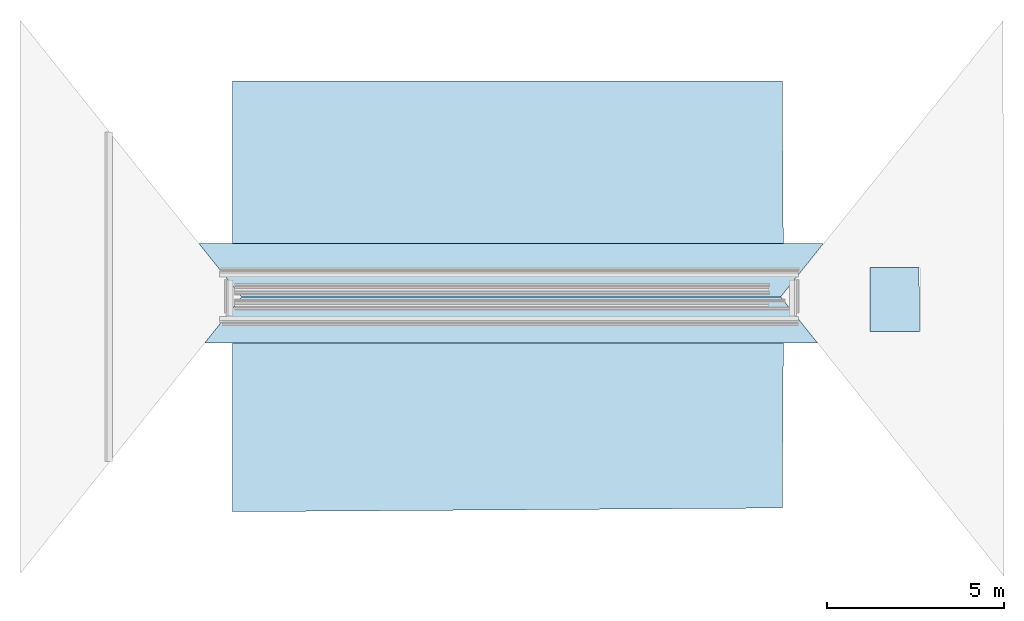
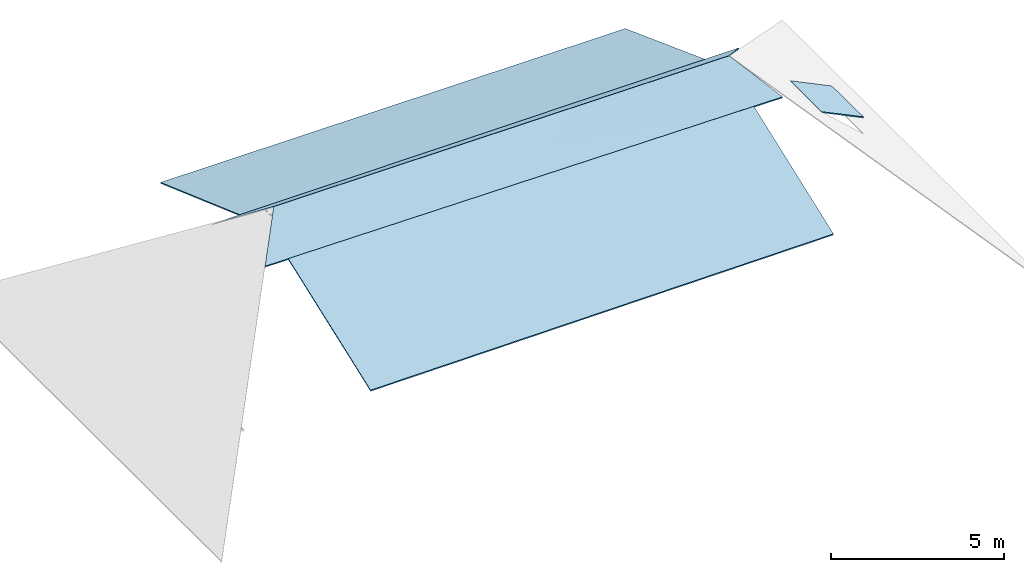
# One storey, part 3 of 3: 5 roofs.
"""IFC2X3 building model written with IfcOpenShell, lengths in centimetres."""

from ifc_helpers import new_model, entity, si_unit, converted_unit, direction, frame, origin, place, context, subcontext, project, spatial, faceted_brep, material, layer, layer_set, type_object, element, save


model = new_model("IFC2X3")

# Units and contexts
model_context = context("Model", 3, precision=0.001, world=frame((0.0, 0.0, 13090.0)), true_north=direction((6.123233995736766e-17, 1.0)))
body_context = subcontext(model_context, "Body", "Model", "MODEL_VIEW")
ifc_project = project(units=[si_unit("LENGTHUNIT", "METRE", prefix="CENTI"), si_unit("AREAUNIT", "SQUARE_METRE"), si_unit("VOLUMEUNIT", "CUBIC_METRE"), converted_unit("PLANEANGLEUNIT", "DEGREE", entity("IfcPlaneAngleMeasure", 0.017453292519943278), si_unit("PLANEANGLEUNIT", "RADIAN"), dimensions=[0, 0, 0, 0, 0, 0, 0])], contexts=[model_context])

# Site, building, storey
site_placement = place(None, origin())
site = spatial("IfcSite", under=ifc_project, at=site_placement, Name="Default", CompositionType="ELEMENT")
building_placement = place(site_placement, origin())
building = spatial("IfcBuilding", under=site, at=building_placement, Name="e 39 logements et 22 maisons relais", CompositionType="ELEMENT")
storey_placement = place(building_placement, frame((0.0, 0.0, 825.0)))
storey = spatial("IfcBuildingStorey", under=building, at=storey_placement, Name="faîtage", CompositionType="ELEMENT", Elevation=825.0000000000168)

# Roofs
ifc_material = material(Name="tole")
ifc_layer = layer(ifc_material, 4.0)
ifc_layer_set = layer_set([ifc_layer], Name="Toit de base:Tôle 1000P")
type_product = type_object("IfcTypeProduct", Name="Toit de base:Tôle 1000P")
roof_1_placement = place(storey_placement, frame((-929.8616663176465, 127.30311492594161, -202.0)))
element("IfcRoof", 1, at=roof_1_placement, inside=storey, type_object=type_product, material=ifc_layer_set, Name="Toit de base:Tôle 1000P", ObjectType="Toit de base:Tôle 1000P", ShapeType="NOTDEFINED", context=body_context, shape_type="Brep", body=[
    faceted_brep([(0.0, 0.0, 168.0), (0.0, 0.0, 164.0), (436.0607877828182, 0.0, 165.1206064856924), (872.1215755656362, 0.0, 166.24121297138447), (1556.5170944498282, 0.0, 168.0), (1556.5170944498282, 0.0, 172.0), (872.1215755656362, 0.0, 170.24121297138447), (436.0607877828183, 0.0, 169.1206064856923), (0.0, 459.087937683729, 4.0), (0.0, 459.087937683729, 0.0), (0.0, 231.5056258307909, 81.29923720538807), (0.0, 231.50562583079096, 85.29923720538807), (1553.506541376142, 459.087937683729, 0.0), (1118.289164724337, 459.087937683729, 0.0), (776.7532706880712, 459.087937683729, 0.0), (776.7532706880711, 459.087937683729, 4.0), (1118.2891647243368, 459.087937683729, 4.0), (1553.506541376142, 459.087937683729, 4.0), (1554.9989540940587, 231.5056097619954, 83.28215131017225), (1554.9989540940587, 231.50560976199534, 87.28215131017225), (1105.2638187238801, 205.82390823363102, 96.04180832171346), (653.4858907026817, 219.6840123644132, 90.3988289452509), (1105.26381872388, 205.82390823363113, 92.04180832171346), (653.4858907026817, 219.6840123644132, 86.3988289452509)], [[[0, 1, 2, 3, 4, 5, 6, 7]], [[8, 9, 10, 1, 0, 11]], [[12, 13, 14, 9, 8, 15, 16, 17]], [[4, 18, 12, 17, 19, 5]], [[20, 16, 15]], [[11, 0, 7]], [[19, 17, 16]], [[20, 15, 21]], [[11, 7, 21]], [[21, 8, 11]], [[6, 21, 7]], [[19, 20, 5]], [[21, 15, 8]], [[20, 21, 6]], [[5, 20, 6]], [[16, 20, 19]], [[14, 13, 22]], [[2, 1, 10]], [[13, 12, 18]], [[23, 14, 22]], [[23, 2, 10]], [[10, 9, 23]], [[2, 23, 3]], [[4, 22, 18]], [[9, 14, 23]], [[3, 23, 22]], [[3, 22, 4]], [[18, 22, 13]]]),
])
roof_2_placement = place(storey_placement, frame((-929.8616663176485, -629.6726698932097, -199.0)))
element("IfcRoof", 2, at=roof_2_placement, inside=storey, type_object=type_product, material=ifc_layer_set, Name="Toit de base:Tôle 1000P", ObjectType="Toit de base:Tôle 1000P", ShapeType="NOTDEFINED", context=body_context, shape_type="Brep", body=[
    faceted_brep([(1556.6504499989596, 476.9095216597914, 173.29999999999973), (1556.6504499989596, 476.9095216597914, 169.29999999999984), (1114.492104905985, 476.90952165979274, 171.20309964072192), (778.3252249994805, 476.9095216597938, 172.64999999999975), (0.0, 476.9095216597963, 176.0), (0.0, 476.9095216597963, 180.0), (778.3252249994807, 476.9095216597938, 176.64999999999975), (1114.492104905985, 476.90952165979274, 175.2030996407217), (0.0, 243.83455082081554, 89.98537247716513), (0.0, 0.0, 0.0), (0.0, 0.0, 4.0), (0.0, 243.8345508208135, 93.98537247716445), (441.28975007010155, 3.009148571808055, 0.5680894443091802), (882.5795001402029, 6.01829714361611, 1.136178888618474), (1553.5925002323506, 10.59392531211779, 2.0), (1553.5925002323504, 10.59392531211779, 6.0), (882.5795001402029, 6.018297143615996, 5.136178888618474), (441.28975007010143, 3.009148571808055, 4.5680894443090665), (1555.1559702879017, 249.01199198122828, 87.5372260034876), (1555.1559702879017, 249.01199198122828, 91.53722600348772), (1110.0930944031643, 217.6507882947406, 81.42836823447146), (662.5551311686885, 229.45871228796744, 86.89455645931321), (1110.0930944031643, 217.6507882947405, 77.42836823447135), (662.5551311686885, 229.4587122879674, 82.89455645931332)], [[[0, 1, 2, 3, 4, 5, 6, 7]], [[4, 8, 9, 10, 11, 5]], [[10, 9, 12, 13, 14, 15, 16, 17]], [[15, 14, 18, 1, 0, 19]], [[20, 7, 6]], [[11, 10, 17]], [[19, 0, 7]], [[20, 6, 21]], [[11, 17, 21]], [[21, 5, 11]], [[16, 21, 17]], [[19, 20, 15]], [[21, 6, 5]], [[20, 21, 16]], [[15, 20, 16]], [[7, 20, 19]], [[3, 2, 22]], [[12, 9, 8]], [[2, 1, 18]], [[23, 3, 22]], [[23, 12, 8]], [[8, 4, 23]], [[12, 23, 13]], [[14, 22, 18]], [[4, 3, 23]], [[13, 23, 22]], [[13, 22, 14]], [[18, 22, 2]]]),
])
roof_3_placement = place(storey_placement, frame((-1007.3447261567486, -152.763148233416, -30.0)))
element("IfcRoof", 3, at=roof_3_placement, inside=storey, type_object=type_product, material=ifc_layer_set, Name="Toit de base:Tôle 1000P", ObjectType="Toit de base:Tôle 1000P", ShapeType="NOTDEFINED", context=body_context, shape_type="Brep", body=[
    faceted_brep([(103.65203545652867, 129.51565486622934, 103.0), (51.82601772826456, 64.75782743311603, 55.0), (0.0, 0.0, 7.0), (0.0, 0.0, 11.0), (51.82601772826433, 64.75782743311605, 59.0), (103.65203545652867, 129.51565486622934, 107.0), (1626.7419643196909, 129.51565486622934, 107.0), (1626.7419643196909, 129.51565486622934, 103.0), (1144.1389543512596, 129.51565486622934, 103.0), (865.1969998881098, 129.51565486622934, 103.0), (586.2550299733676, 129.51565486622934, 103.0), (586.2550454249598, 129.51565486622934, 107.0), (865.1969998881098, 129.51565486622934, 107.0), (1144.1389543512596, 129.51565486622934, 107.0), (548.2889347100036, 0.0, 4.781995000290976), (1096.5778694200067, 0.0, 2.5639900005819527), (1456.2495324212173, 0.0, 1.109002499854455), (1730.393999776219, 0.0, 0.0), (1730.393999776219, 0.0, 4.0), (1456.2495324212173, 0.0, 5.109002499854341), (1096.577869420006, 0.0, 6.563990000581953), (548.2889347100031, 0.0, 8.781995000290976), (1681.129555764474, 61.55708085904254, 48.95454016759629), (1653.9357600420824, 95.53636786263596, 75.97727008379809), (1653.9357600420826, 95.53636786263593, 79.97727008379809), (1681.129555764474, 61.55708085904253, 52.95454016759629), (1262.7636045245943, 35.88576153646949, 33.86653943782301), (1014.0183248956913, 65.72080857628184, 57.6740745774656), (967.1666936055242, 31.60330259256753, 31.457903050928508), (1346.4283618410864, 75.64226815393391, 64.74125192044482), (379.69185236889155, 95.1251358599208, 81.15141659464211), (531.3526655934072, 58.22498903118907, 53.016856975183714), (720.3371550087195, 92.7492365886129, 78.93627723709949), (967.1666936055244, 31.60330259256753, 27.45790305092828), (1014.0183248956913, 65.72080857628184, 53.67407457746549), (1262.7636045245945, 35.885761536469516, 29.866539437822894), (1346.4283618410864, 75.64226815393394, 60.74125192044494), (379.6918523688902, 95.1251358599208, 77.15141659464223), (720.3371550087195, 92.74923658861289, 74.93627723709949), (531.3526655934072, 58.22498903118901, 49.01685697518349)], [[[0, 1, 2, 3, 4, 5]], [[6, 7, 8, 9, 10, 0, 5, 11, 12, 13]], [[2, 14, 15, 16, 17, 18, 19, 20, 21, 3]], [[18, 17, 22, 23, 7, 6, 24, 25]], [[26, 27, 28]], [[26, 29, 27]], [[5, 4, 30]], [[13, 12, 27]], [[29, 24, 13]], [[30, 31, 32]], [[28, 31, 21]], [[19, 18, 25]], [[11, 30, 32]], [[31, 3, 21]], [[19, 25, 26]], [[26, 28, 20]], [[19, 26, 20]], [[29, 26, 25]], [[24, 6, 13]], [[13, 27, 29]], [[29, 25, 24]], [[31, 28, 27]], [[21, 20, 28]], [[32, 12, 11]], [[31, 4, 3]], [[31, 27, 32]], [[27, 12, 32]], [[5, 30, 11]], [[4, 31, 30]], [[33, 34, 35]], [[34, 36, 35]], [[37, 1, 0]], [[34, 9, 8]], [[8, 23, 36]], [[38, 39, 37]], [[14, 39, 33]], [[22, 17, 16]], [[38, 37, 10]], [[14, 2, 39]], [[35, 22, 16]], [[15, 33, 35]], [[15, 35, 16]], [[22, 35, 36]], [[8, 7, 23]], [[36, 34, 8]], [[23, 22, 36]], [[34, 33, 39]], [[33, 15, 14]], [[10, 9, 38]], [[2, 1, 39]], [[38, 34, 39]], [[38, 9, 34]], [[10, 37, 0]], [[37, 39, 1]]]),
])
roof_4_placement = place(storey_placement, frame((-1023.6195484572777, -22.54831297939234, -38.0)))
element("IfcRoof", 4, at=roof_4_placement, inside=storey, type_object=type_product, material=ifc_layer_set, Name="Toit de base:Tôle 1000P", ObjectType="Toit de base:Tôle 1000P", ShapeType="NOTDEFINED", context=body_context, shape_type="Brep", body=[
    faceted_brep([(119.92685775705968, 0.0, 115.0), (119.92685775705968, 0.0, 111.0), (500.69933529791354, 0.0, 111.0), (881.4718128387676, 0.0, 111.0), (1132.3298806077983, 0.0, 111.0), (1643.016786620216, 0.0, 111.0), (1643.016786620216, 0.0, 115.0), (1132.3298806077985, 0.0, 115.0), (881.4718128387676, 0.0, 115.0), (500.69933529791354, 0.0, 115.0), (1762.9436443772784, 149.85142790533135, 6.0), (1171.834607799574, 149.8514279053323, 3.988220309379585), (580.72557122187, 149.8514279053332, 1.976440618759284), (0.0, 149.85142790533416, 0.0), (0.0, 149.85142790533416, 4.0), (580.72557122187, 149.8514279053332, 5.976440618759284), (1171.8346077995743, 149.8514279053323, 7.988220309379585), (1762.943644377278, 149.85142790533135, 10.0), (50.267798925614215, 87.04063149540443, 46.52607251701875), (85.09732834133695, 43.52031574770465, 78.76303625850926), (85.09732834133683, 43.52031574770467, 82.76303625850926), (50.267798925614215, 87.04063149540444, 50.52607251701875), (1693.2845837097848, 62.810794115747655, 66.98885192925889), (1728.1141140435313, 106.33111101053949, 36.49442596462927), (1728.1141140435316, 106.33111101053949, 40.49442596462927), (1693.2845837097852, 62.81079411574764, 70.98885192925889), (656.9276979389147, 103.02511340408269, 40.19963619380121), (1011.8567727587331, 37.597896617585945, 88.02664789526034), (542.2654433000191, 57.91777508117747, 72.77102379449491), (1238.6795474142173, 110.55029426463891, 36.25493478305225), (1017.2136358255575, 78.23765654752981, 58.87101283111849), (1364.4994152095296, 73.56643488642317, 62.846763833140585), (1385.1151818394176, 33.84774470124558, 91.03821242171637), (656.9276979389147, 103.02511340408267, 36.1996361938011), (542.2654433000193, 57.91777508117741, 68.77102379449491), (1011.8567727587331, 37.5978966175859, 84.02664789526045), (1238.6795474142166, 110.5502942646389, 32.25493478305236), (1017.2136358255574, 78.23765654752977, 54.87101283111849), (1364.4994152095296, 73.56643488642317, 58.8467638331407), (1385.1151818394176, 33.84774470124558, 87.03821242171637)], [[[0, 1, 2, 3, 4, 5, 6, 7, 8, 9]], [[10, 11, 12, 13, 14, 15, 16, 17]], [[14, 13, 18, 19, 1, 0, 20, 21]], [[5, 22, 23, 10, 17, 24, 25, 6]], [[14, 21, 26]], [[27, 28, 8]], [[17, 29, 24]], [[27, 30, 28]], [[27, 31, 30]], [[7, 27, 8]], [[31, 27, 32]], [[6, 25, 32]], [[26, 28, 30]], [[32, 27, 7]], [[28, 26, 21]], [[28, 9, 8]], [[20, 9, 28]], [[20, 0, 9]], [[6, 32, 7]], [[32, 25, 31]], [[29, 17, 16]], [[31, 29, 30]], [[31, 25, 24]], [[16, 26, 29]], [[24, 29, 31]], [[26, 16, 15, 14]], [[29, 26, 30]], [[28, 21, 20]], [[33, 18, 13]], [[3, 34, 35]], [[23, 36, 10]], [[34, 37, 35]], [[37, 38, 35]], [[3, 35, 4]], [[39, 35, 38]], [[39, 22, 5]], [[37, 34, 33]], [[4, 35, 39]], [[18, 33, 34]], [[3, 2, 34]], [[34, 2, 19]], [[2, 1, 19]], [[4, 39, 5]], [[38, 22, 39]], [[11, 10, 36]], [[37, 36, 38]], [[23, 22, 38]], [[36, 33, 11]], [[38, 36, 23]], [[12, 11, 33, 13]], [[37, 33, 36]], [[19, 18, 34]]]),
])
roof_5_placement = place(storey_placement, frame((871.6481247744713, -120.88165539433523, -221.0)))
element("IfcRoof", 5, at=roof_5_placement, inside=storey, type_object=type_product, material=ifc_layer_set, Name="Toit de base:Tôle 1000P", ObjectType="Toit de base:Tôle 1000P", ShapeType="NOTDEFINED", context=body_context, shape_type="Brep", body=[
    faceted_brep([(138.46788327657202, 180.83126610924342, 4.0), (138.46788327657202, 180.83126610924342, 0.0), (71.07315070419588, 180.83126610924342, 32.61006794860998), (35.536575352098, 180.83126610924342, 49.80503397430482), (0.0, 180.83126610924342, 67.0), (0.0, 180.83126610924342, 71.0), (35.536575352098, 180.83126610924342, 53.80503397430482), (71.07315070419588, 180.83126610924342, 36.61006794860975), (0.0, 83.53578751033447, 67.0), (0.0, 0.0, 67.0), (0.0, 0.0, 71.0), (0.0, 83.5357875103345, 71.0), (69.82685868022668, 0.0, 33.499999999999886), (103.8128078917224, 0.0, 17.19496609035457), (139.65371736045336, 0.0, 0.0), (139.65371736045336, 0.0, 4.0), (103.8128078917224, 0.0, 21.19496609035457), (69.82685868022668, 0.0, 37.499999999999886), (139.0156845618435, 97.29546515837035, 0.0), (139.01568456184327, 97.29546515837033, 4.0), (53.53073110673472, 91.36256475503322, 45.20754706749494), (96.19569309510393, 99.18430843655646, 24.6333919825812), (53.53073110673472, 91.36256475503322, 41.20754706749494), (96.19569309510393, 99.18430843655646, 20.6333919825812)], [[[0, 1, 2, 3, 4, 5, 6, 7]], [[4, 8, 9, 10, 11, 5]], [[9, 12, 13, 14, 15, 16, 17, 10]], [[14, 18, 1, 0, 19, 15]], [[11, 20, 6]], [[21, 20, 17]], [[20, 10, 17]], [[7, 20, 21]], [[16, 19, 21]], [[11, 6, 5]], [[11, 10, 20]], [[7, 6, 20]], [[16, 21, 17]], [[19, 16, 15]], [[0, 7, 21]], [[0, 21, 19]], [[3, 22, 8]], [[12, 22, 23]], [[12, 9, 22]], [[23, 22, 2]], [[23, 18, 13]], [[4, 3, 8]], [[22, 9, 8]], [[22, 3, 2]], [[12, 23, 13]], [[14, 13, 18]], [[23, 2, 1]], [[18, 23, 1]]]),
])

save(model, "model.ifc")
